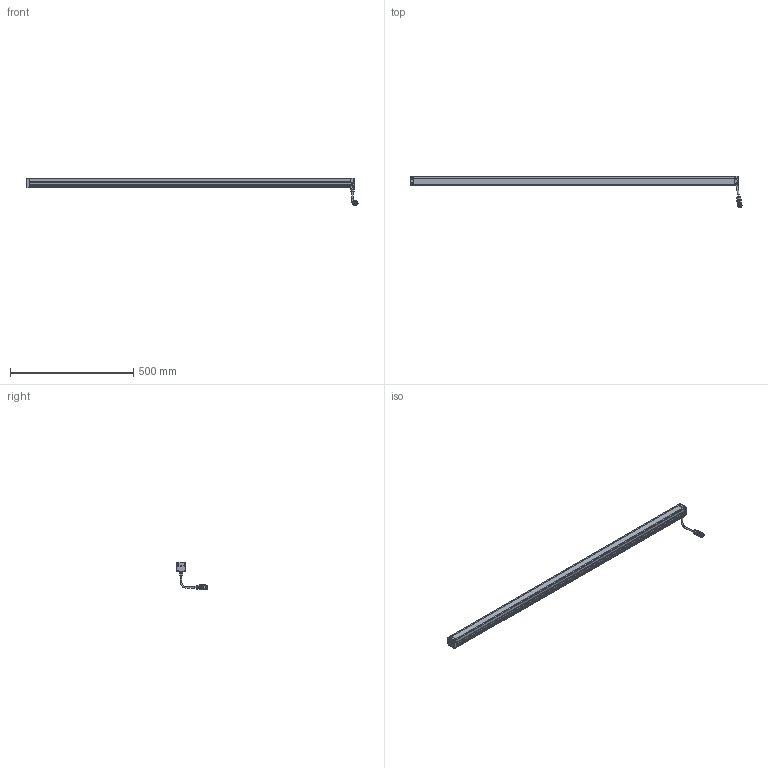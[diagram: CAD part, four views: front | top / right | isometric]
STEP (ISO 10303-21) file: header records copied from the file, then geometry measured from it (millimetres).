
FILE_DESCRIPTION(/* description */ (''),/* implementation_level */ '2;1');
FILE_NAME(/* name */ 'LBHP1300',/* time_stamp */ '2025-01-14T08:09:18+01:00',/* author */ (''),/* organization */ ('iiM AG'),/* preprocessor_version */ 'ST-DEVELOPER v16.7',/* originating_system */ 'DEX',/* authorisation */ $);
FILE_SCHEMA (('AUTOMOTIVE_DESIGN {1 0 10303 214 3 1 1}'));
Length unit declared in the file: millimetre
Products named in the file (1): step export
Bounding box: 1344.79 x 126.2 x 109.58 mm (x, y, z)
Volume: 1698737.3 mm3; surface area: 377414.4 mm2
Topology: 2 solids, 2 shells, 882 faces, 2334 edges, 1476 vertices
Faces by surface type: cylinder 368, plane 336, cone 138, sphere 21, torus 16, bspline 3
Full cylindrical faces by diameter (mm): 1.001 x12, 2.693 x4, 3 x2, 3.1 x4, 3.242 x6, 3.8 x8, 5.6 x8, 6 x8, 6.8 x2, 8.008 x1, 10 x1, 11 x1, 12.9 x2, 14 x1, 15.015 x1, 16.016 x1, 17.518 x1, 18.519 x3, 18.619 x2
Entity records: 32582 total; most frequent: CARTESIAN_POINT 6224, ORIENTED_EDGE 4118, DIRECTION 4048, EDGE_CURVE 2059, AXIS2_PLACEMENT_3D 1523, VERTEX_POINT 1383, FACE_BOUND 1100, EDGE_LOOP 1086
